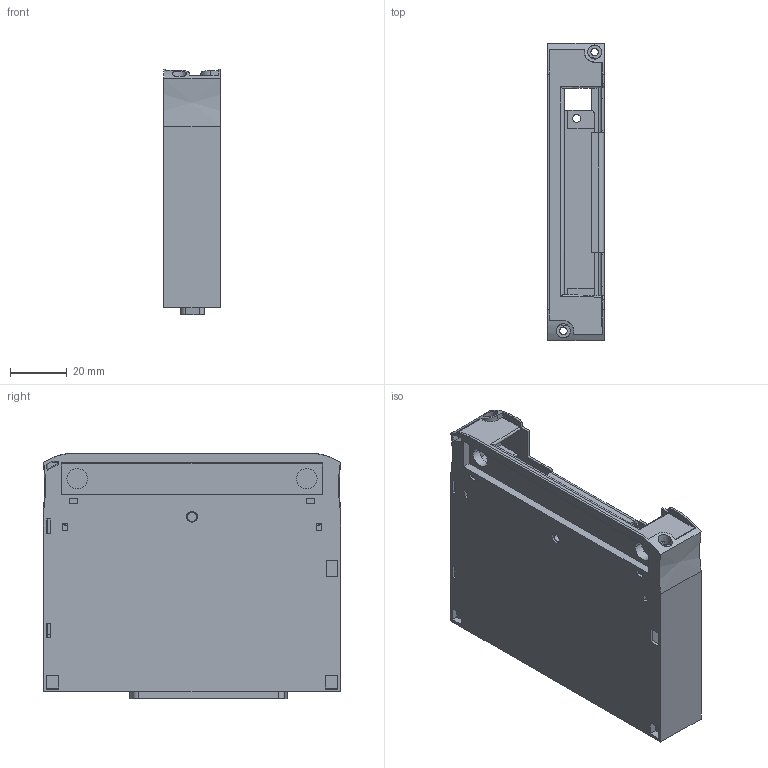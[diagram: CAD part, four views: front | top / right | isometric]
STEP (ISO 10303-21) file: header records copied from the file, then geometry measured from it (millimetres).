
FILE_DESCRIPTION((''),'2;1');
FILE_NAME('CU_TB-2666','2011-08-15T',('jjorden'),(''),'PRO/ENGINEER BY PARAMETRIC TECHNOLOGY CORPORATION, 2010230','PRO/ENGINEER BY PARAMETRIC TECHNOLOGY CORPORATION, 2010230','');
FILE_SCHEMA(('CONFIG_CONTROL_DESIGN'));
Length unit declared in the file: inch
Products named in the file (1): CU_TB-2666
Bounding box: 20.02 x 104.92 x 86.55 mm (x, y, z)
Volume: 52172.8 mm3; surface area: 65806.7 mm2
Topology: 2 solids, 2 shells, 996 faces, 2553 edges, 1612 vertices
Faces by surface type: plane 430, cylinder 402, cone 144, torus 12, bspline 6, sphere 2
Entity records: 32512 total; most frequent: CARTESIAN_POINT 7519, DIRECTION 5255, ORIENTED_EDGE 5106, EDGE_CURVE 2553, AXIS2_PLACEMENT_3D 1857, VERTEX_POINT 1612, VECTOR 1541, LINE 1541
